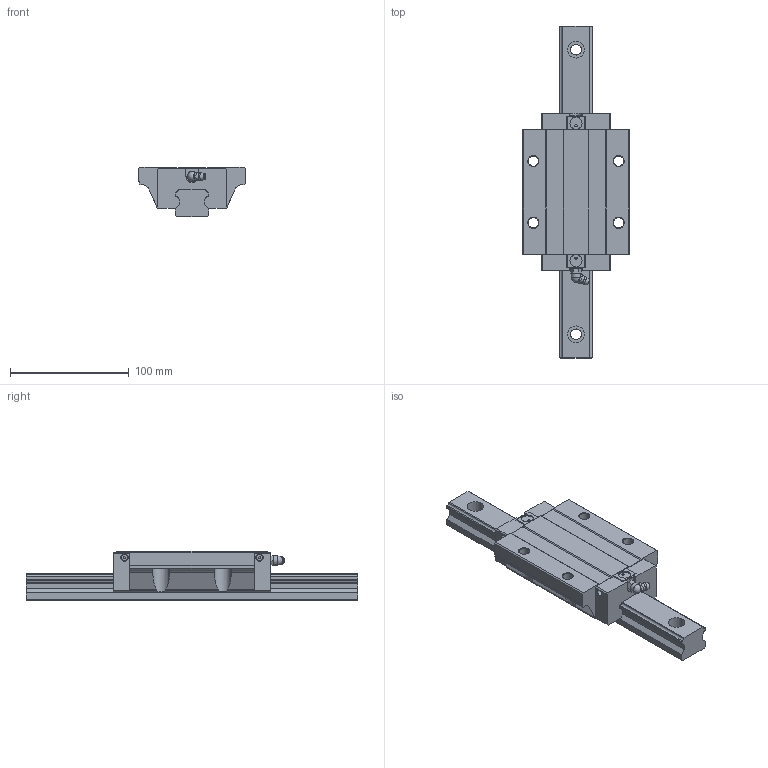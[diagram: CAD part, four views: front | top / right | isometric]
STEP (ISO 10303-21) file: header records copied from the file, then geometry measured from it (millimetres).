
FILE_DESCRIPTION(/* description */ (''),/* implementation_level */ '2;1');
FILE_NAME(/* name */ 'SME30-LEA',/* time_stamp */ '2008-10-06T09:59:47+08:00',/* author */ (''),/* organization */ (''),/* preprocessor_version */ 'ST-DEVELOPER v11',/* originating_system */ 'UGS - NX 5.0',/* authorisation */ '');
FILE_SCHEMA (('AUTOMOTIVE_DESIGN { 1 0 10303 214 1 1 1 1 }'));
Length unit declared in the file: millimetre
Products named in the file (1): SME30LEA_UG
Bounding box: 90 x 280 x 42 mm (x, y, z)
Volume: 426570.8 mm3; surface area: 75026.7 mm2
Topology: 3 solids, 3 shells, 221 faces, 600 edges, 401 vertices
Faces by surface type: plane 145, cylinder 57, cone 9, torus 7, sphere 2, bspline 1
Full cylindrical faces by diameter (mm): 1.5 x4, 2 x2, 5.2 x4, 8 x1, 8.5 x4, 9 x4, 10.2 x2, 14 x4
Entity records: 7149 total; most frequent: CARTESIAN_POINT 1416, ORIENTED_EDGE 1106, DIRECTION 1100, EDGE_CURVE 553, VERTEX_POINT 392, AXIS2_PLACEMENT_3D 372, LINE 356, VECTOR 356
